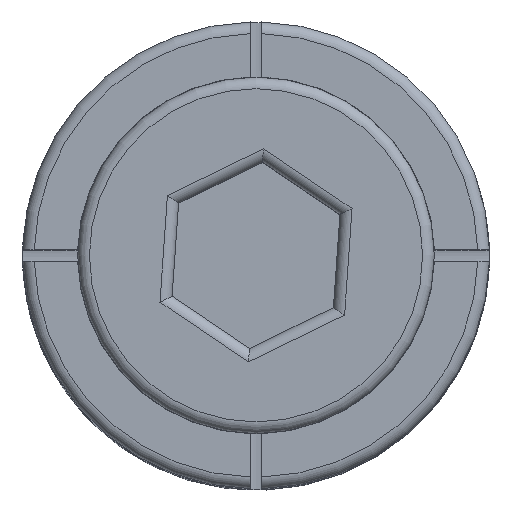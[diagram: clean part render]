
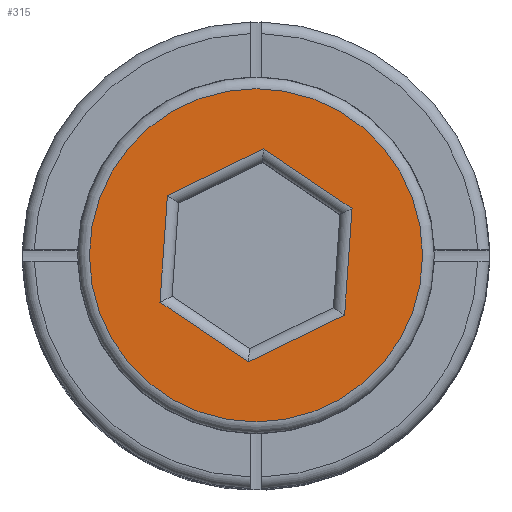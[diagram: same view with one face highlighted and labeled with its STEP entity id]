
A CAD part, top view. The second image highlights one B-rep face of the part: STEP entity #315.
In plain terms, the highlighted planar face has unit normal (0, 0, 1).
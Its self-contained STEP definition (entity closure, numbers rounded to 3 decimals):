
#154=LINE('',#1394,#210);
#155=LINE('',#1397,#211);
#156=LINE('',#1399,#212);
#157=LINE('',#1401,#213);
#158=LINE('',#1403,#214);
#159=LINE('',#1405,#215);
#210=VECTOR('',#1155,1.);
#211=VECTOR('',#1156,1.);
#212=VECTOR('',#1157,1.);
#213=VECTOR('',#1158,1.);
#214=VECTOR('',#1159,1.);
#215=VECTOR('',#1160,1.);
#295=FACE_BOUND('',#444,.T.);
#296=FACE_BOUND('',#445,.T.);
#315=ADVANCED_FACE('',(#295,#296),#370,.T.);
#370=PLANE('',#1051);
#444=EDGE_LOOP('',(#512,#513,#514,#515,#516,#517));
#445=EDGE_LOOP('',(#518));
#512=ORIENTED_EDGE('',*,*,#875,.T.);
#513=ORIENTED_EDGE('',*,*,#876,.T.);
#514=ORIENTED_EDGE('',*,*,#877,.T.);
#515=ORIENTED_EDGE('',*,*,#878,.T.);
#516=ORIENTED_EDGE('',*,*,#879,.T.);
#517=ORIENTED_EDGE('',*,*,#880,.T.);
#518=ORIENTED_EDGE('',*,*,#881,.T.);
#783=VERTEX_POINT('',#1395);
#784=VERTEX_POINT('',#1396);
#785=VERTEX_POINT('',#1398);
#786=VERTEX_POINT('',#1400);
#787=VERTEX_POINT('',#1402);
#788=VERTEX_POINT('',#1404);
#789=VERTEX_POINT('',#1407);
#875=EDGE_CURVE('',#783,#784,#154,.T.);
#876=EDGE_CURVE('',#784,#785,#155,.T.);
#877=EDGE_CURVE('',#785,#786,#156,.T.);
#878=EDGE_CURVE('',#786,#787,#157,.T.);
#879=EDGE_CURVE('',#787,#788,#158,.T.);
#880=EDGE_CURVE('',#788,#783,#159,.T.);
#881=EDGE_CURVE('',#789,#789,#1011,.T.);
#1011=CIRCLE('',#1050,7.137);
#1050=AXIS2_PLACEMENT_3D('',#1406,#1161,#1162);
#1051=AXIS2_PLACEMENT_3D('',#1408,#1163,#1164);
#1155=DIRECTION('',(0.07,0.998,0.));
#1156=DIRECTION('',(0.899,0.438,0.));
#1157=DIRECTION('',(0.829,-0.559,0.));
#1158=DIRECTION('',(-0.07,-0.998,0.));
#1159=DIRECTION('',(-0.899,-0.438,0.));
#1160=DIRECTION('',(-0.829,0.559,0.));
#1161=DIRECTION('',(0.,0.,1.));
#1162=DIRECTION('',(1.,0.,0.));
#1163=DIRECTION('',(0.,0.,1.));
#1164=DIRECTION('',(1.,0.,0.));
#1394=CARTESIAN_POINT('',(-3.815,2.272,35.5));
#1395=CARTESIAN_POINT('',(-4.114,-2.007,35.5));
#1396=CARTESIAN_POINT('',(-3.795,2.56,35.5));
#1397=CARTESIAN_POINT('',(0.06,4.44,35.5));
#1398=CARTESIAN_POINT('',(0.319,4.566,35.5));
#1399=CARTESIAN_POINT('',(3.875,2.168,35.5));
#1400=CARTESIAN_POINT('',(4.114,2.007,35.5));
#1401=CARTESIAN_POINT('',(3.815,-2.272,35.5));
#1402=CARTESIAN_POINT('',(3.795,-2.56,35.5));
#1403=CARTESIAN_POINT('',(-0.06,-4.44,35.5));
#1404=CARTESIAN_POINT('',(-0.319,-4.566,35.5));
#1405=CARTESIAN_POINT('',(-3.875,-2.168,35.5));
#1406=CARTESIAN_POINT('',(0.,0.,35.5));
#1407=CARTESIAN_POINT('',(7.137,0.,35.5));
#1408=CARTESIAN_POINT('',(0.,7.733,35.5));
